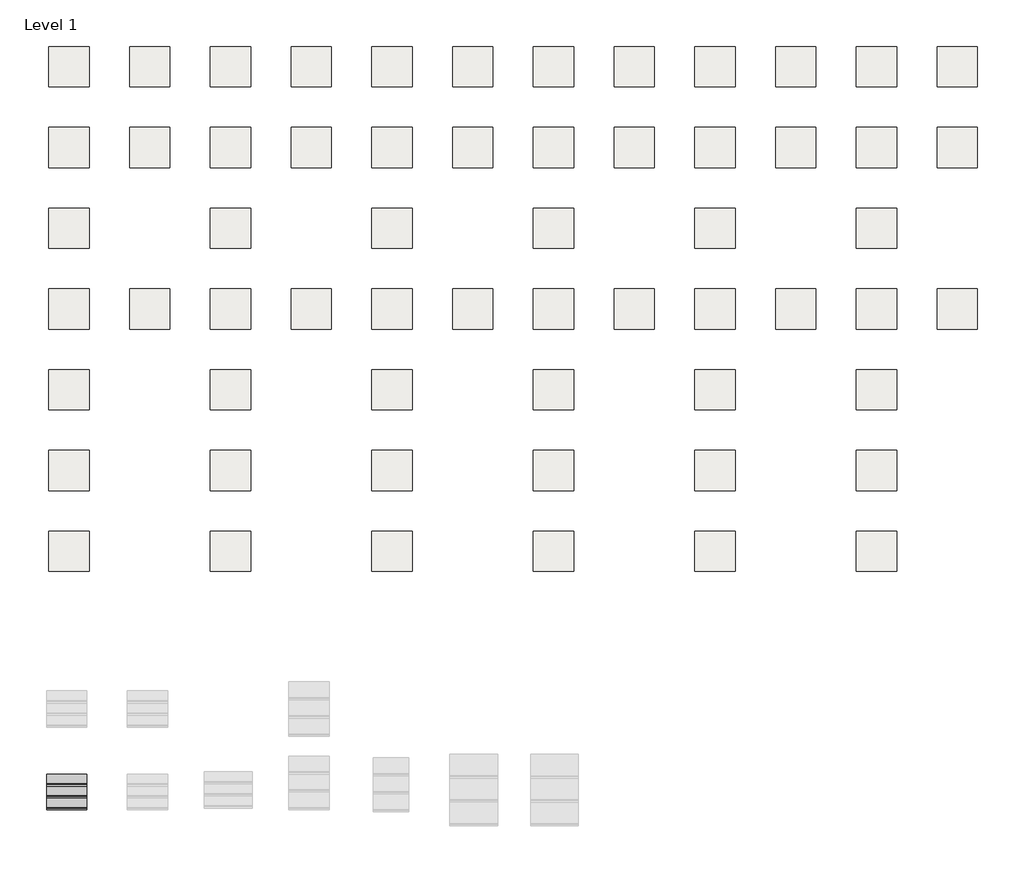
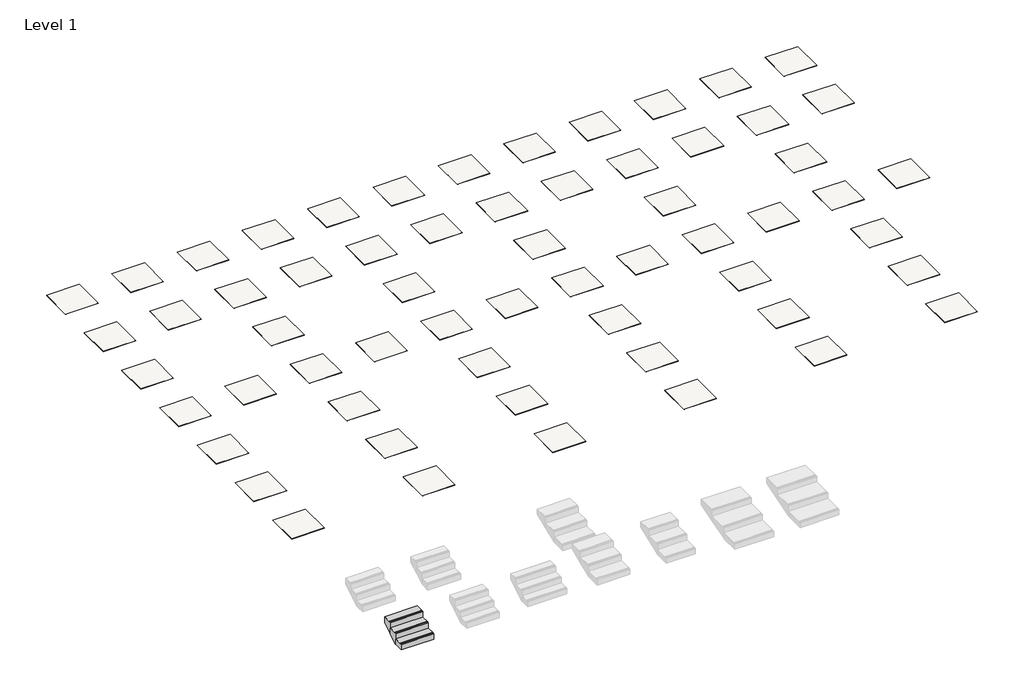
# One storey, part 1 of 2: 60 coverings, 1 stair flight.
"""IFC4 building model written with IfcOpenShell, lengths in millimetres."""

from ifc_helpers import new_model, si_unit, frame, origin, place, context, project, spatial, polyline, outline, extrude, faceted_brep, element, save

model = new_model("IFC4")

# Units and contexts
model_context = context("Model", 3, world=origin())
ifc_project = project(units=[si_unit("LENGTHUNIT", "METRE", prefix="MILLI")], contexts=[model_context])

# Site, building, storey
site = spatial("IfcSite", under=ifc_project)
building = spatial("IfcBuilding", under=site)
storey = spatial("IfcBuildingStorey", under=building, Name="Level 1", Elevation=0.0)

# Coverings
placement = place(None, origin())
element("IfcCovering", 1, ObjectType="REVIGRÉS-URBAN-DG-30X30-RECT-ANTRACITE", at=placement, inside=storey, context=model_context, shape_type="SweptSolid", body=[
    extrude(outline(polyline([(32008.2238844, 17811.2034686), (31008.2238844, 17811.2034686), (31008.2238844, 18811.2034686), (32008.2238844, 18811.2034686), (32008.2238844, 17811.2034686)])), frame((0.0, 0.0, -7.7), z_axis=(0.0, 0.0, 1.0), x_axis=(1.0, 0.0, 0.0)), (0.0, 0.0, 1.0), 7.7),
])
element("IfcCovering", 2, ObjectType="REVIGRÉS-URBAN-DG-30X30-NAT-ANTRACITE", at=placement, inside=storey, context=model_context, shape_type="SweptSolid", body=[
    extrude(outline(polyline([(34008.2238844, 17811.2034686), (33008.2238844, 17811.2034686), (33008.2238844, 18811.2034686), (34008.2238844, 18811.2034686), (34008.2238844, 17811.2034686)])), frame((0.0, 0.0, -7.7), z_axis=(0.0, 0.0, 1.0), x_axis=(1.0, 0.0, 0.0)), (0.0, 0.0, 1.0), 7.7),
])
element("IfcCovering", 3, ObjectType="REVIGRÉS-URBAN-DG-30X60-RECT-ANTRACITE", at=placement, inside=storey, context=model_context, shape_type="SweptSolid", body=[
    extrude(outline(polyline([(32008.2238844, 15811.2034686), (31008.2238844, 15811.2034686), (31008.2238844, 16811.2034686), (32008.2238844, 16811.2034686), (32008.2238844, 15811.2034686)])), frame((0.0, 0.0, -8.5), z_axis=(0.0, 0.0, 1.0), x_axis=(1.0, 0.0, 0.0)), (0.0, 0.0, 1.0), 8.5),
])
element("IfcCovering", 4, ObjectType="REVIGRÉS-URBAN-DG-30X60-NAT-ANTRACITE", at=placement, inside=storey, context=model_context, shape_type="SweptSolid", body=[
    extrude(outline(polyline([(34008.2238844, 15811.2034686), (33008.2238844, 15811.2034686), (33008.2238844, 16811.2034686), (34008.2238844, 16811.2034686), (34008.2238844, 15811.2034686)])), frame((0.0, 0.0, -8.5), z_axis=(0.0, 0.0, 1.0), x_axis=(1.0, 0.0, 0.0)), (0.0, 0.0, 1.0), 8.5),
])
element("IfcCovering", 5, ObjectType="REVIGRÉS-URBAN-DG-30X120-RECT-ANTRACITE", at=placement, inside=storey, context=model_context, shape_type="SweptSolid", body=[
    extrude(outline(polyline([(32008.2238844, 13811.2034686), (31008.2238844, 13811.2034686), (31008.2238844, 14811.2034686), (32008.2238844, 14811.2034686), (32008.2238844, 13811.2034686)])), frame((0.0, 0.0, -9.8), z_axis=(0.0, 0.0, 1.0), x_axis=(1.0, 0.0, 0.0)), (0.0, 0.0, 1.0), 9.8),
])
element("IfcCovering", 6, ObjectType="REVIGRÉS-URBAN-DG-45X45-RECT-ANTRACITE", at=placement, inside=storey, context=model_context, shape_type="SweptSolid", body=[
    extrude(outline(polyline([(32008.2238844, 11811.2034686), (31008.2238844, 11811.2034686), (31008.2238844, 12811.2034686), (32008.2238844, 12811.2034686), (32008.2238844, 11811.2034686)])), frame((0.0, 0.0, -8.5), z_axis=(0.0, 0.0, 1.0), x_axis=(1.0, 0.0, 0.0)), (0.0, 0.0, 1.0), 8.5),
])
element("IfcCovering", 7, ObjectType="REVIGRÉS-URBAN-DG-45X45-NAT-ANTRACITE", at=placement, inside=storey, context=model_context, shape_type="SweptSolid", body=[
    extrude(outline(polyline([(34008.2238844, 11811.2034686), (33008.2238844, 11811.2034686), (33008.2238844, 12811.2034686), (34008.2238844, 12811.2034686), (34008.2238844, 11811.2034686)])), frame((0.0, 0.0, -8.5), z_axis=(0.0, 0.0, 1.0), x_axis=(1.0, 0.0, 0.0)), (0.0, 0.0, 1.0), 8.5),
])
element("IfcCovering", 8, ObjectType="REVIGRÉS-URBAN-DG-45X90-RECT-ANTRACITE", at=placement, inside=storey, context=model_context, shape_type="SweptSolid", body=[
    extrude(outline(polyline([(32008.2238844, 9811.2034686), (31008.2238844, 9811.2034686), (31008.2238844, 10811.2034686), (32008.2238844, 10811.2034686), (32008.2238844, 9811.2034686)])), frame((0.0, 0.0, -10.5), z_axis=(0.0, 0.0, 1.0), x_axis=(1.0, 0.0, 0.0)), (0.0, 0.0, 1.0), 10.5),
])
element("IfcCovering", 9, ObjectType="REVIGRÉS-URBAN-DG-60X60-RECT-ANTRACITE", at=placement, inside=storey, context=model_context, shape_type="SweptSolid", body=[
    extrude(outline(polyline([(32008.2238844, 7811.2034686), (31008.2238844, 7811.2034686), (31008.2238844, 8811.2034686), (32008.2238844, 8811.2034686), (32008.2238844, 7811.2034686)])), frame((0.0, 0.0, -10.5), z_axis=(0.0, 0.0, 1.0), x_axis=(1.0, 0.0, 0.0)), (0.0, 0.0, 1.0), 10.5),
])
element("IfcCovering", 10, ObjectType="REVIGRÉS-URBAN-DG-60X120-RECT-ANTRACITE", at=placement, inside=storey, context=model_context, shape_type="SweptSolid", body=[
    extrude(outline(polyline([(32008.2238844, 5811.2034686), (31008.2238844, 5811.2034686), (31008.2238844, 6811.2034686), (32008.2238844, 6811.2034686), (32008.2238844, 5811.2034686)])), frame((0.0, 0.0, -9.8), z_axis=(0.0, 0.0, 1.0), x_axis=(1.0, 0.0, 0.0)), (0.0, 0.0, 1.0), 9.8),
])
element("IfcCovering", 11, ObjectType="REVIGRÉS-URBAN-DG-30X30-RECT-BONE", at=placement, inside=storey, context=model_context, shape_type="SweptSolid", body=[
    extrude(outline(polyline([(36008.2238844, 17811.2034686), (35008.2238844, 17811.2034686), (35008.2238844, 18811.2034686), (36008.2238844, 18811.2034686), (36008.2238844, 17811.2034686)])), frame((0.0, 0.0, -7.7), z_axis=(0.0, 0.0, 1.0), x_axis=(1.0, 0.0, 0.0)), (0.0, 0.0, 1.0), 7.7),
])
element("IfcCovering", 12, ObjectType="REVIGRÉS-URBAN-DG-30X30-NAT-BONE", at=placement, inside=storey, context=model_context, shape_type="SweptSolid", body=[
    extrude(outline(polyline([(38008.2238844, 17811.2034686), (37008.2238844, 17811.2034686), (37008.2238844, 18811.2034686), (38008.2238844, 18811.2034686), (38008.2238844, 17811.2034686)])), frame((0.0, 0.0, -7.7), z_axis=(0.0, 0.0, 1.0), x_axis=(1.0, 0.0, 0.0)), (0.0, 0.0, 1.0), 7.7),
])
element("IfcCovering", 13, ObjectType="REVIGRÉS-URBAN-DG-30X60-RECT-BONE", at=placement, inside=storey, context=model_context, shape_type="SweptSolid", body=[
    extrude(outline(polyline([(36008.2238844, 15811.2034686), (35008.2238844, 15811.2034686), (35008.2238844, 16811.2034686), (36008.2238844, 16811.2034686), (36008.2238844, 15811.2034686)])), frame((0.0, 0.0, -8.5), z_axis=(0.0, 0.0, 1.0), x_axis=(1.0, 0.0, 0.0)), (0.0, 0.0, 1.0), 8.5),
])
element("IfcCovering", 14, ObjectType="REVIGRÉS-URBAN-DG-30X60-NAT-BONE", at=placement, inside=storey, context=model_context, shape_type="SweptSolid", body=[
    extrude(outline(polyline([(38008.2238844, 15811.2034686), (37008.2238844, 15811.2034686), (37008.2238844, 16811.2034686), (38008.2238844, 16811.2034686), (38008.2238844, 15811.2034686)])), frame((0.0, 0.0, -8.5), z_axis=(0.0, 0.0, 1.0), x_axis=(1.0, 0.0, 0.0)), (0.0, 0.0, 1.0), 8.5),
])
element("IfcCovering", 15, ObjectType="REVIGRÉS-URBAN-DG-30X120-RECT-BONE", at=placement, inside=storey, context=model_context, shape_type="SweptSolid", body=[
    extrude(outline(polyline([(36008.2238844, 13811.2034686), (35008.2238844, 13811.2034686), (35008.2238844, 14811.2034686), (36008.2238844, 14811.2034686), (36008.2238844, 13811.2034686)])), frame((0.0, 0.0, -9.8), z_axis=(0.0, 0.0, 1.0), x_axis=(1.0, 0.0, 0.0)), (0.0, 0.0, 1.0), 9.8),
])
element("IfcCovering", 16, ObjectType="REVIGRÉS-URBAN-DG-45X45-RECT-BONE", at=placement, inside=storey, context=model_context, shape_type="SweptSolid", body=[
    extrude(outline(polyline([(36008.2238844, 11811.2034686), (35008.2238844, 11811.2034686), (35008.2238844, 12811.2034686), (36008.2238844, 12811.2034686), (36008.2238844, 11811.2034686)])), frame((0.0, 0.0, -8.5), z_axis=(0.0, 0.0, 1.0), x_axis=(1.0, 0.0, 0.0)), (0.0, 0.0, 1.0), 8.5),
])
element("IfcCovering", 17, ObjectType="REVIGRÉS-URBAN-DG-45X45-NAT-BONE", at=placement, inside=storey, context=model_context, shape_type="SweptSolid", body=[
    extrude(outline(polyline([(38008.2238844, 11811.2034686), (37008.2238844, 11811.2034686), (37008.2238844, 12811.2034686), (38008.2238844, 12811.2034686), (38008.2238844, 11811.2034686)])), frame((0.0, 0.0, -8.5), z_axis=(0.0, 0.0, 1.0), x_axis=(1.0, 0.0, 0.0)), (0.0, 0.0, 1.0), 8.5),
])
element("IfcCovering", 18, ObjectType="REVIGRÉS-URBAN-DG-45X90-RECT-BONE", at=placement, inside=storey, context=model_context, shape_type="SweptSolid", body=[
    extrude(outline(polyline([(36008.2238844, 9811.2034686), (35008.2238844, 9811.2034686), (35008.2238844, 10811.2034686), (36008.2238844, 10811.2034686), (36008.2238844, 9811.2034686)])), frame((0.0, 0.0, -10.5), z_axis=(0.0, 0.0, 1.0), x_axis=(1.0, 0.0, 0.0)), (0.0, 0.0, 1.0), 10.5),
])
element("IfcCovering", 19, ObjectType="REVIGRÉS-URBAN-DG-60X60-RECT-BONE", at=placement, inside=storey, context=model_context, shape_type="SweptSolid", body=[
    extrude(outline(polyline([(36008.2238844, 7811.2034686), (35008.2238844, 7811.2034686), (35008.2238844, 8811.2034686), (36008.2238844, 8811.2034686), (36008.2238844, 7811.2034686)])), frame((0.0, 0.0, -10.5), z_axis=(0.0, 0.0, 1.0), x_axis=(1.0, 0.0, 0.0)), (0.0, 0.0, 1.0), 10.5),
])
element("IfcCovering", 20, ObjectType="REVIGRÉS-URBAN-DG-60X120-RECT-BONE", at=placement, inside=storey, context=model_context, shape_type="SweptSolid", body=[
    extrude(outline(polyline([(36008.2238844, 5811.2034686), (35008.2238844, 5811.2034686), (35008.2238844, 6811.2034686), (36008.2238844, 6811.2034686), (36008.2238844, 5811.2034686)])), frame((0.0, 0.0, -9.8), z_axis=(0.0, 0.0, 1.0), x_axis=(1.0, 0.0, 0.0)), (0.0, 0.0, 1.0), 9.8),
])
element("IfcCovering", 21, ObjectType="REVIGRÉS-URBAN-DG-30X30-RECT-CRAFT", at=placement, inside=storey, context=model_context, shape_type="SweptSolid", body=[
    extrude(outline(polyline([(40008.2238844, 17811.2034686), (39008.2238844, 17811.2034686), (39008.2238844, 18811.2034686), (40008.2238844, 18811.2034686), (40008.2238844, 17811.2034686)])), frame((0.0, 0.0, -7.7), z_axis=(0.0, 0.0, 1.0), x_axis=(1.0, 0.0, 0.0)), (0.0, 0.0, 1.0), 7.7),
])
element("IfcCovering", 22, ObjectType="REVIGRÉS-URBAN-DG-30X30-NAT-CRAFT", at=placement, inside=storey, context=model_context, shape_type="SweptSolid", body=[
    extrude(outline(polyline([(42008.2238844, 17811.2034686), (41008.2238844, 17811.2034686), (41008.2238844, 18811.2034686), (42008.2238844, 18811.2034686), (42008.2238844, 17811.2034686)])), frame((0.0, 0.0, -7.7), z_axis=(0.0, 0.0, 1.0), x_axis=(1.0, 0.0, 0.0)), (0.0, 0.0, 1.0), 7.7),
])
element("IfcCovering", 23, ObjectType="REVIGRÉS-URBAN-DG-30X60-RECT-CRAFT", at=placement, inside=storey, context=model_context, shape_type="SweptSolid", body=[
    extrude(outline(polyline([(40008.2238844, 15811.2034686), (39008.2238844, 15811.2034686), (39008.2238844, 16811.2034686), (40008.2238844, 16811.2034686), (40008.2238844, 15811.2034686)])), frame((0.0, 0.0, -8.5), z_axis=(0.0, 0.0, 1.0), x_axis=(1.0, 0.0, 0.0)), (0.0, 0.0, 1.0), 8.5),
])
element("IfcCovering", 24, ObjectType="REVIGRÉS-URBAN-DG-30X60-NAT-CRAFT", at=placement, inside=storey, context=model_context, shape_type="SweptSolid", body=[
    extrude(outline(polyline([(42008.2238844, 15811.2034686), (41008.2238844, 15811.2034686), (41008.2238844, 16811.2034686), (42008.2238844, 16811.2034686), (42008.2238844, 15811.2034686)])), frame((0.0, 0.0, -8.5), z_axis=(0.0, 0.0, 1.0), x_axis=(1.0, 0.0, 0.0)), (0.0, 0.0, 1.0), 8.5),
])
element("IfcCovering", 25, ObjectType="REVIGRÉS-URBAN-DG-30X120-RECT-CRAFT", at=placement, inside=storey, context=model_context, shape_type="SweptSolid", body=[
    extrude(outline(polyline([(40008.2238844, 13811.2034686), (39008.2238844, 13811.2034686), (39008.2238844, 14811.2034686), (40008.2238844, 14811.2034686), (40008.2238844, 13811.2034686)])), frame((0.0, 0.0, -9.8), z_axis=(0.0, 0.0, 1.0), x_axis=(1.0, 0.0, 0.0)), (0.0, 0.0, 1.0), 9.8),
])
element("IfcCovering", 26, ObjectType="REVIGRÉS-URBAN-DG-45X45-RECT-CRAFT", at=placement, inside=storey, context=model_context, shape_type="SweptSolid", body=[
    extrude(outline(polyline([(40008.2238844, 11811.2034686), (39008.2238844, 11811.2034686), (39008.2238844, 12811.2034686), (40008.2238844, 12811.2034686), (40008.2238844, 11811.2034686)])), frame((0.0, 0.0, -8.5), z_axis=(0.0, 0.0, 1.0), x_axis=(1.0, 0.0, 0.0)), (0.0, 0.0, 1.0), 8.5),
])
element("IfcCovering", 27, ObjectType="REVIGRÉS-URBAN-DG-45X45-NAT-CRAFT", at=placement, inside=storey, context=model_context, shape_type="SweptSolid", body=[
    extrude(outline(polyline([(42008.2238844, 11811.2034686), (41008.2238844, 11811.2034686), (41008.2238844, 12811.2034686), (42008.2238844, 12811.2034686), (42008.2238844, 11811.2034686)])), frame((0.0, 0.0, -8.5), z_axis=(0.0, 0.0, 1.0), x_axis=(1.0, 0.0, 0.0)), (0.0, 0.0, 1.0), 8.5),
])
element("IfcCovering", 28, ObjectType="REVIGRÉS-URBAN-DG-45X90-RECT-CRAFT", at=placement, inside=storey, context=model_context, shape_type="SweptSolid", body=[
    extrude(outline(polyline([(40008.2238844, 9811.2034686), (39008.2238844, 9811.2034686), (39008.2238844, 10811.2034686), (40008.2238844, 10811.2034686), (40008.2238844, 9811.2034686)])), frame((0.0, 0.0, -10.5), z_axis=(0.0, 0.0, 1.0), x_axis=(1.0, 0.0, 0.0)), (0.0, 0.0, 1.0), 10.5),
])
element("IfcCovering", 29, ObjectType="REVIGRÉS-URBAN-DG-60X60-RECT-CRAFT", at=placement, inside=storey, context=model_context, shape_type="SweptSolid", body=[
    extrude(outline(polyline([(40008.2238844, 7811.2034686), (39008.2238844, 7811.2034686), (39008.2238844, 8811.2034686), (40008.2238844, 8811.2034686), (40008.2238844, 7811.2034686)])), frame((0.0, 0.0, -10.5), z_axis=(0.0, 0.0, 1.0), x_axis=(1.0, 0.0, 0.0)), (0.0, 0.0, 1.0), 10.5),
])
element("IfcCovering", 30, ObjectType="REVIGRÉS-URBAN-DG-60X120-RECT-CRAFT", at=placement, inside=storey, context=model_context, shape_type="SweptSolid", body=[
    extrude(outline(polyline([(40008.2238844, 5811.2034686), (39008.2238844, 5811.2034686), (39008.2238844, 6811.2034686), (40008.2238844, 6811.2034686), (40008.2238844, 5811.2034686)])), frame((0.0, 0.0, -9.8), z_axis=(0.0, 0.0, 1.0), x_axis=(1.0, 0.0, 0.0)), (0.0, 0.0, 1.0), 9.8),
])
element("IfcCovering", 31, ObjectType="REVIGRÉS-URBAN-DG-30X30-RECT-FOG", at=placement, inside=storey, context=model_context, shape_type="SweptSolid", body=[
    extrude(outline(polyline([(44008.2238844, 17811.2034686), (43008.2238844, 17811.2034686), (43008.2238844, 18811.2034686), (44008.2238844, 18811.2034686), (44008.2238844, 17811.2034686)])), frame((0.0, 0.0, -7.7), z_axis=(0.0, 0.0, 1.0), x_axis=(1.0, 0.0, 0.0)), (0.0, 0.0, 1.0), 7.7),
])
element("IfcCovering", 32, ObjectType="REVIGRÉS-URBAN-DG-30X30-NAT-FOG", at=placement, inside=storey, context=model_context, shape_type="SweptSolid", body=[
    extrude(outline(polyline([(46008.2238844, 17811.2034686), (45008.2238844, 17811.2034686), (45008.2238844, 18811.2034686), (46008.2238844, 18811.2034686), (46008.2238844, 17811.2034686)])), frame((0.0, 0.0, -7.7), z_axis=(0.0, 0.0, 1.0), x_axis=(1.0, 0.0, 0.0)), (0.0, 0.0, 1.0), 7.7),
])
element("IfcCovering", 33, ObjectType="REVIGRÉS-URBAN-DG-30X60-RECT-FOG", at=placement, inside=storey, context=model_context, shape_type="SweptSolid", body=[
    extrude(outline(polyline([(44008.2238844, 15811.2034686), (43008.2238844, 15811.2034686), (43008.2238844, 16811.2034686), (44008.2238844, 16811.2034686), (44008.2238844, 15811.2034686)])), frame((0.0, 0.0, -8.5), z_axis=(0.0, 0.0, 1.0), x_axis=(1.0, 0.0, 0.0)), (0.0, 0.0, 1.0), 8.5),
])
element("IfcCovering", 34, ObjectType="REVIGRÉS-URBAN-DG-30X60-NAT-FOG", at=placement, inside=storey, context=model_context, shape_type="SweptSolid", body=[
    extrude(outline(polyline([(46008.2238844, 15811.2034686), (45008.2238844, 15811.2034686), (45008.2238844, 16811.2034686), (46008.2238844, 16811.2034686), (46008.2238844, 15811.2034686)])), frame((0.0, 0.0, -8.5), z_axis=(0.0, 0.0, 1.0), x_axis=(1.0, 0.0, 0.0)), (0.0, 0.0, 1.0), 8.5),
])
element("IfcCovering", 35, ObjectType="REVIGRÉS-URBAN-DG-30X120-RECT-FOG", at=placement, inside=storey, context=model_context, shape_type="SweptSolid", body=[
    extrude(outline(polyline([(44008.2238844, 13811.2034686), (43008.2238844, 13811.2034686), (43008.2238844, 14811.2034686), (44008.2238844, 14811.2034686), (44008.2238844, 13811.2034686)])), frame((0.0, 0.0, -9.8), z_axis=(0.0, 0.0, 1.0), x_axis=(1.0, 0.0, 0.0)), (0.0, 0.0, 1.0), 9.8),
])
element("IfcCovering", 36, ObjectType="REVIGRÉS-URBAN-DG-45X45-RECT-FOG", at=placement, inside=storey, context=model_context, shape_type="SweptSolid", body=[
    extrude(outline(polyline([(44008.2238844, 11811.2034686), (43008.2238844, 11811.2034686), (43008.2238844, 12811.2034686), (44008.2238844, 12811.2034686), (44008.2238844, 11811.2034686)])), frame((0.0, 0.0, -8.5), z_axis=(0.0, 0.0, 1.0), x_axis=(1.0, 0.0, 0.0)), (0.0, 0.0, 1.0), 8.5),
])
element("IfcCovering", 37, ObjectType="REVIGRÉS-URBAN-DG-45X45-NAT-FOG", at=placement, inside=storey, context=model_context, shape_type="SweptSolid", body=[
    extrude(outline(polyline([(46008.2238844, 11811.2034686), (45008.2238844, 11811.2034686), (45008.2238844, 12811.2034686), (46008.2238844, 12811.2034686), (46008.2238844, 11811.2034686)])), frame((0.0, 0.0, -8.5), z_axis=(0.0, 0.0, 1.0), x_axis=(1.0, 0.0, 0.0)), (0.0, 0.0, 1.0), 8.5),
])
element("IfcCovering", 38, ObjectType="REVIGRÉS-URBAN-DG-45X90-RECT-FOG", at=placement, inside=storey, context=model_context, shape_type="SweptSolid", body=[
    extrude(outline(polyline([(44008.2238844, 9811.2034686), (43008.2238844, 9811.2034686), (43008.2238844, 10811.2034686), (44008.2238844, 10811.2034686), (44008.2238844, 9811.2034686)])), frame((0.0, 0.0, -10.5), z_axis=(0.0, 0.0, 1.0), x_axis=(1.0, 0.0, 0.0)), (0.0, 0.0, 1.0), 10.5),
])
element("IfcCovering", 39, ObjectType="REVIGRÉS-URBAN-DG-60X60-RECT-FOG", at=placement, inside=storey, context=model_context, shape_type="SweptSolid", body=[
    extrude(outline(polyline([(44008.2238844, 7811.2034686), (43008.2238844, 7811.2034686), (43008.2238844, 8811.2034686), (44008.2238844, 8811.2034686), (44008.2238844, 7811.2034686)])), frame((0.0, 0.0, -10.5), z_axis=(0.0, 0.0, 1.0), x_axis=(1.0, 0.0, 0.0)), (0.0, 0.0, 1.0), 10.5),
])
element("IfcCovering", 40, ObjectType="REVIGRÉS-URBAN-DG-60X120-RECT-FOG", at=placement, inside=storey, context=model_context, shape_type="SweptSolid", body=[
    extrude(outline(polyline([(44008.2238844, 5811.2034686), (43008.2238844, 5811.2034686), (43008.2238844, 6811.2034686), (44008.2238844, 6811.2034686), (44008.2238844, 5811.2034686)])), frame((0.0, 0.0, -9.8), z_axis=(0.0, 0.0, 1.0), x_axis=(1.0, 0.0, 0.0)), (0.0, 0.0, 1.0), 9.8),
])
element("IfcCovering", 41, ObjectType="REVIGRÉS-URBAN-DG-30X30-RECT-GRIS", at=placement, inside=storey, context=model_context, shape_type="SweptSolid", body=[
    extrude(outline(polyline([(48008.2238844, 17811.2034686), (47008.2238844, 17811.2034686), (47008.2238844, 18811.2034686), (48008.2238844, 18811.2034686), (48008.2238844, 17811.2034686)])), frame((0.0, 0.0, -7.7), z_axis=(0.0, 0.0, 1.0), x_axis=(1.0, 0.0, 0.0)), (0.0, 0.0, 1.0), 7.7),
])
element("IfcCovering", 42, ObjectType="REVIGRÉS-URBAN-DG-30X30-NAT-GRIS", at=placement, inside=storey, context=model_context, shape_type="SweptSolid", body=[
    extrude(outline(polyline([(50008.2238844, 17811.2034686), (49008.2238844, 17811.2034686), (49008.2238844, 18811.2034686), (50008.2238844, 18811.2034686), (50008.2238844, 17811.2034686)])), frame((0.0, 0.0, -7.7), z_axis=(0.0, 0.0, 1.0), x_axis=(1.0, 0.0, 0.0)), (0.0, 0.0, 1.0), 7.7),
])
element("IfcCovering", 43, ObjectType="REVIGRÉS-URBAN-DG-30X60-RECT-GRIS", at=placement, inside=storey, context=model_context, shape_type="SweptSolid", body=[
    extrude(outline(polyline([(48008.2238844, 15811.2034686), (47008.2238844, 15811.2034686), (47008.2238844, 16811.2034686), (48008.2238844, 16811.2034686), (48008.2238844, 15811.2034686)])), frame((0.0, 0.0, -8.5), z_axis=(0.0, 0.0, 1.0), x_axis=(1.0, 0.0, 0.0)), (0.0, 0.0, 1.0), 8.5),
])
element("IfcCovering", 44, ObjectType="REVIGRÉS-URBAN-DG-30X60-NAT-GRIS", at=placement, inside=storey, context=model_context, shape_type="SweptSolid", body=[
    extrude(outline(polyline([(50008.2238844, 15811.2034686), (49008.2238844, 15811.2034686), (49008.2238844, 16811.2034686), (50008.2238844, 16811.2034686), (50008.2238844, 15811.2034686)])), frame((0.0, 0.0, -8.5), z_axis=(0.0, 0.0, 1.0), x_axis=(1.0, 0.0, 0.0)), (0.0, 0.0, 1.0), 8.5),
])
element("IfcCovering", 45, ObjectType="REVIGRÉS-URBAN-DG-30X120-RECT-GRIS", at=placement, inside=storey, context=model_context, shape_type="SweptSolid", body=[
    extrude(outline(polyline([(48008.2238844, 13811.2034686), (47008.2238844, 13811.2034686), (47008.2238844, 14811.2034686), (48008.2238844, 14811.2034686), (48008.2238844, 13811.2034686)])), frame((0.0, 0.0, -9.8), z_axis=(0.0, 0.0, 1.0), x_axis=(1.0, 0.0, 0.0)), (0.0, 0.0, 1.0), 9.8),
])
element("IfcCovering", 46, ObjectType="REVIGRÉS-URBAN-DG-45X45-RECT-GRIS", at=placement, inside=storey, context=model_context, shape_type="SweptSolid", body=[
    extrude(outline(polyline([(48008.2238844, 11811.2034686), (47008.2238844, 11811.2034686), (47008.2238844, 12811.2034686), (48008.2238844, 12811.2034686), (48008.2238844, 11811.2034686)])), frame((0.0, 0.0, -8.5), z_axis=(0.0, 0.0, 1.0), x_axis=(1.0, 0.0, 0.0)), (0.0, 0.0, 1.0), 8.5),
])
element("IfcCovering", 47, ObjectType="REVIGRÉS-URBAN-DG-45X45-NAT-GRIS", at=placement, inside=storey, context=model_context, shape_type="SweptSolid", body=[
    extrude(outline(polyline([(50008.2238844, 11811.2034686), (49008.2238844, 11811.2034686), (49008.2238844, 12811.2034686), (50008.2238844, 12811.2034686), (50008.2238844, 11811.2034686)])), frame((0.0, 0.0, -8.5), z_axis=(0.0, 0.0, 1.0), x_axis=(1.0, 0.0, 0.0)), (0.0, 0.0, 1.0), 8.5),
])
element("IfcCovering", 48, ObjectType="REVIGRÉS-URBAN-DG-45X90-RECT-GRIS", at=placement, inside=storey, context=model_context, shape_type="SweptSolid", body=[
    extrude(outline(polyline([(48008.2238844, 9811.2034686), (47008.2238844, 9811.2034686), (47008.2238844, 10811.2034686), (48008.2238844, 10811.2034686), (48008.2238844, 9811.2034686)])), frame((0.0, 0.0, -10.5), z_axis=(0.0, 0.0, 1.0), x_axis=(1.0, 0.0, 0.0)), (0.0, 0.0, 1.0), 10.5),
])
element("IfcCovering", 49, ObjectType="REVIGRÉS-URBAN-DG-60X60-RECT-GRIS", at=placement, inside=storey, context=model_context, shape_type="SweptSolid", body=[
    extrude(outline(polyline([(48008.2238844, 7811.2034686), (47008.2238844, 7811.2034686), (47008.2238844, 8811.2034686), (48008.2238844, 8811.2034686), (48008.2238844, 7811.2034686)])), frame((0.0, 0.0, -10.5), z_axis=(0.0, 0.0, 1.0), x_axis=(1.0, 0.0, 0.0)), (0.0, 0.0, 1.0), 10.5),
])
element("IfcCovering", 50, ObjectType="REVIGRÉS-URBAN-DG-60X120-RECT-GRIS", at=placement, inside=storey, context=model_context, shape_type="SweptSolid", body=[
    extrude(outline(polyline([(48008.2238844, 5811.2034686), (47008.2238844, 5811.2034686), (47008.2238844, 6811.2034686), (48008.2238844, 6811.2034686), (48008.2238844, 5811.2034686)])), frame((0.0, 0.0, -9.8), z_axis=(0.0, 0.0, 1.0), x_axis=(1.0, 0.0, 0.0)), (0.0, 0.0, 1.0), 9.8),
])
element("IfcCovering", 51, ObjectType="REVIGRÉS-URBAN-DG-30X30-RECT-OFFWHITE", at=placement, inside=storey, context=model_context, shape_type="SweptSolid", body=[
    extrude(outline(polyline([(52008.2238844, 17811.2034686), (51008.2238844, 17811.2034686), (51008.2238844, 18811.2034686), (52008.2238844, 18811.2034686), (52008.2238844, 17811.2034686)])), frame((0.0, 0.0, -7.7), z_axis=(0.0, 0.0, 1.0), x_axis=(1.0, 0.0, 0.0)), (0.0, 0.0, 1.0), 7.7),
])
element("IfcCovering", 52, ObjectType="REVIGRÉS-URBAN-DG-30X30-NAT-OFFWHITE", at=placement, inside=storey, context=model_context, shape_type="SweptSolid", body=[
    extrude(outline(polyline([(54008.2238844, 17811.2034686), (53008.2238844, 17811.2034686), (53008.2238844, 18811.2034686), (54008.2238844, 18811.2034686), (54008.2238844, 17811.2034686)])), frame((0.0, 0.0, -7.7), z_axis=(0.0, 0.0, 1.0), x_axis=(1.0, 0.0, 0.0)), (0.0, 0.0, 1.0), 7.7),
])
element("IfcCovering", 53, ObjectType="REVIGRÉS-URBAN-DG-30X60-RECT-OFFWHITE", at=placement, inside=storey, context=model_context, shape_type="SweptSolid", body=[
    extrude(outline(polyline([(52008.2238844, 15811.2034686), (51008.2238844, 15811.2034686), (51008.2238844, 16811.2034686), (52008.2238844, 16811.2034686), (52008.2238844, 15811.2034686)])), frame((0.0, 0.0, -8.5), z_axis=(0.0, 0.0, 1.0), x_axis=(1.0, 0.0, 0.0)), (0.0, 0.0, 1.0), 8.5),
])
element("IfcCovering", 54, ObjectType="REVIGRÉS-URBAN-DG-30X60-NAT-OFFWHITE", at=placement, inside=storey, context=model_context, shape_type="SweptSolid", body=[
    extrude(outline(polyline([(54008.2238844, 15811.2034686), (53008.2238844, 15811.2034686), (53008.2238844, 16811.2034686), (54008.2238844, 16811.2034686), (54008.2238844, 15811.2034686)])), frame((0.0, 0.0, -8.5), z_axis=(0.0, 0.0, 1.0), x_axis=(1.0, 0.0, 0.0)), (0.0, 0.0, 1.0), 8.5),
])
element("IfcCovering", 55, ObjectType="REVIGRÉS-URBAN-DG-30X120-RECT-OFFWHITE", at=placement, inside=storey, context=model_context, shape_type="SweptSolid", body=[
    extrude(outline(polyline([(52008.2238844, 13811.2034686), (51008.2238844, 13811.2034686), (51008.2238844, 14811.2034686), (52008.2238844, 14811.2034686), (52008.2238844, 13811.2034686)])), frame((0.0, 0.0, -9.8), z_axis=(0.0, 0.0, 1.0), x_axis=(1.0, 0.0, 0.0)), (0.0, 0.0, 1.0), 9.8),
])
element("IfcCovering", 56, ObjectType="REVIGRÉS-URBAN-DG-45X45-RECT-OFFWHITE", at=placement, inside=storey, context=model_context, shape_type="SweptSolid", body=[
    extrude(outline(polyline([(52008.2238844, 11811.2034686), (51008.2238844, 11811.2034686), (51008.2238844, 12811.2034686), (52008.2238844, 12811.2034686), (52008.2238844, 11811.2034686)])), frame((0.0, 0.0, -8.5), z_axis=(0.0, 0.0, 1.0), x_axis=(1.0, 0.0, 0.0)), (0.0, 0.0, 1.0), 8.5),
])
element("IfcCovering", 57, ObjectType="REVIGRÉS-URBAN-DG-45X45-NAT-OFFWHITE", at=placement, inside=storey, context=model_context, shape_type="SweptSolid", body=[
    extrude(outline(polyline([(54008.2238844, 11811.2034686), (53008.2238844, 11811.2034686), (53008.2238844, 12811.2034686), (54008.2238844, 12811.2034686), (54008.2238844, 11811.2034686)])), frame((0.0, 0.0, -8.5), z_axis=(0.0, 0.0, 1.0), x_axis=(1.0, 0.0, 0.0)), (0.0, 0.0, 1.0), 8.5),
])
element("IfcCovering", 58, ObjectType="REVIGRÉS-URBAN-DG-45X90-RECT-OFFWHITE", at=placement, inside=storey, context=model_context, shape_type="SweptSolid", body=[
    extrude(outline(polyline([(52008.2238844, 9811.2034686), (51008.2238844, 9811.2034686), (51008.2238844, 10811.2034686), (52008.2238844, 10811.2034686), (52008.2238844, 9811.2034686)])), frame((0.0, 0.0, -10.5), z_axis=(0.0, 0.0, 1.0), x_axis=(1.0, 0.0, 0.0)), (0.0, 0.0, 1.0), 10.5),
])
element("IfcCovering", 59, ObjectType="REVIGRÉS-URBAN-DG-60X60-RECT-OFFWHITE", at=placement, inside=storey, context=model_context, shape_type="SweptSolid", body=[
    extrude(outline(polyline([(52008.2238844, 7811.2034686), (51008.2238844, 7811.2034686), (51008.2238844, 8811.2034686), (52008.2238844, 8811.2034686), (52008.2238844, 7811.2034686)])), frame((0.0, 0.0, -10.5), z_axis=(0.0, 0.0, 1.0), x_axis=(1.0, 0.0, 0.0)), (0.0, 0.0, 1.0), 10.5),
])
element("IfcCovering", 60, ObjectType="REVIGRÉS-URBAN-DG-60X120-RECT-OFFWHITE", at=placement, inside=storey, context=model_context, shape_type="SweptSolid", body=[
    extrude(outline(polyline([(52008.2238844, 5811.2034686), (51008.2238844, 5811.2034686), (51008.2238844, 6811.2034686), (52008.2238844, 6811.2034686), (52008.2238844, 5811.2034686)])), frame((0.0, 0.0, -9.8), z_axis=(0.0, 0.0, 1.0), x_axis=(1.0, 0.0, 0.0)), (0.0, 0.0, 1.0), 9.8),
])

# Stair flight
element("IfcStairFlight", 61, ObjectType="REVIGRÉS-URBAN-DG-RECT-30X30", at=placement, inside=storey, context=model_context, shape_type="SolidModel", body=[
    faceted_brep([(30953.6111771, 201.6754564, 169.4941176), (30953.6111771, -93.3245436, 169.4941176), (31953.6111771, -93.3245436, 169.4941176), (31953.6111771, 201.6754564, 169.4941176), (30953.6111771, 201.6754564, 0.0), (30953.6111771, -93.3245436, 0.0), (31953.6111771, -93.3245436, 0.0), (31953.6111771, 201.6754564, 0.0), (30953.6111771, 496.6754564, 348.7882353), (30953.6111771, 201.6754564, 348.7882353), (31953.6111771, 201.6754564, 348.7882353), (31953.6111771, 496.6754564, 348.7882353), (30953.6111771, 496.6754564, 173.2566689), (30953.6111771, 211.6091197, 0.0), (31953.6111771, 211.6091197, 0.0), (31953.6111771, 496.6754564, 173.2566689), (30953.6111771, 791.6754564, 528.0823529), (30953.6111771, 496.6754564, 528.0823529), (31953.6111771, 496.6754564, 528.0823529), (31953.6111771, 791.6754564, 528.0823529), (30953.6111771, 791.6754564, 352.5507865), (31953.6111771, 791.6754564, 352.5507865)], [[[0, 1, 2, 3]], [[1, 0, 4, 5]], [[2, 1, 5, 6]], [[3, 2, 6, 7]], [[8, 9, 10, 11]], [[4, 0, 9, 8, 12, 13]], [[0, 3, 10, 9]], [[3, 7, 14, 15, 11, 10]], [[16, 17, 18, 19]], [[17, 16, 20, 12, 8]], [[8, 11, 18, 17]], [[19, 18, 11, 15, 21]], [[16, 19, 21, 20]], [[5, 4, 13, 14, 7, 6]], [[14, 13, 12, 20, 21, 15]]]),
    extrude(outline(polyline([(-63.3245436, 179.2941176), (-63.3245436, 178.2941176), (-58.3245436, 178.2941176), (-58.3245436, 179.2941176), (-48.3245436, 179.2941176), (-48.3245436, 178.2941176), (-43.3245436, 178.2941176), (-43.3245436, 179.2941176), (-33.3245436, 179.2941176), (-33.3245436, 178.2941176), (-28.3245436, 178.2941176), (-28.3245436, 179.2941176), (201.6754564, 179.2941176), (201.6754564, 171.5941176), (-93.3245436, 171.5941176), (-93.3245436, 179.2941176), (-63.3245436, 179.2941176)])), frame((30953.6111771, 0.0, 0.0), z_axis=(1.0, 0.0, 0.0), x_axis=(0.0, 1.0, 0.0)), (0.0, 0.0, 1.0), 1000.0),
    extrude(outline(polyline([(231.6754564, 358.5882353), (231.6754564, 357.5882353), (236.6754564, 357.5882353), (236.6754564, 358.5882353), (246.6754564, 358.5882353), (246.6754564, 357.5882353), (251.6754564, 357.5882353), (251.6754564, 358.5882353), (261.6754564, 358.5882353), (261.6754564, 357.5882353), (266.6754564, 357.5882353), (266.6754564, 358.5882353), (496.6754564, 358.5882353), (496.6754564, 350.8882353), (201.6754564, 350.8882353), (201.6754564, 358.5882353), (231.6754564, 358.5882353)])), frame((30953.6111771, 0.0, 0.0), z_axis=(1.0, 0.0, 0.0), x_axis=(0.0, 1.0, 0.0)), (0.0, 0.0, 1.0), 1000.0),
    extrude(outline(polyline([(526.6754564, 537.8823529), (526.6754564, 536.8823529), (531.6754564, 536.8823529), (531.6754564, 537.8823529), (541.6754564, 537.8823529), (541.6754564, 536.8823529), (546.6754564, 536.8823529), (546.6754564, 537.8823529), (556.6754564, 537.8823529), (556.6754564, 536.8823529), (561.6754564, 536.8823529), (561.6754564, 537.8823529), (791.6754564, 537.8823529), (791.6754564, 530.1823529), (496.6754564, 530.1823529), (496.6754564, 537.8823529), (526.6754564, 537.8823529)])), frame((30953.6111771, 0.0, 0.0), z_axis=(1.0, 0.0, 0.0), x_axis=(0.0, 1.0, 0.0)), (0.0, 0.0, 1.0), 1000.0),
])

save(model, "model.ifc")
